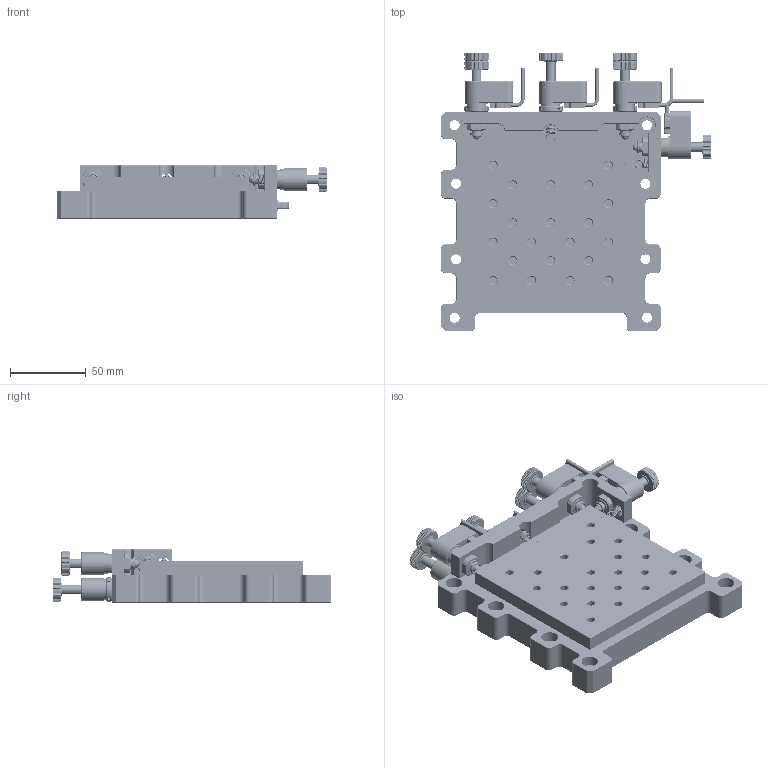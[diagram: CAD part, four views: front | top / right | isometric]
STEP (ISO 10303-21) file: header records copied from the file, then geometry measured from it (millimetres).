
FILE_DESCRIPTION (( 'STEP AP214' ), '1' );
FILE_NAME ('N91.XYZTR4K鞠粣揤萇噩殤24.04.18.STEP', '2024-04-18T06:37:35', ( 'User' ), ( 'China' ), 'SwSTEP 2.0', 'SolidWorks 2016', '' );
FILE_SCHEMA (( 'AUTOMOTIVE_DESIGN' ));
Length unit declared in the file: millimetre
Products named in the file (33): N81锁紧螺母（230315）; 带花纹螺母-2（230315）; hexagon socket head cap screws gb_GB_FASTENER_SCREWS_HSHCS M1.6X4-N; N81肣蹟恇奪-M12; N81止动螺母（230315）; N91.XYZTR4K挃詩菜; N81蹟裝ㄗ230315ㄘ; GB╱T 77-2007[内六角平端紧定螺钉M3×20]_M3×16; N81钢球（230315）; N91.XYZTR4K幗紩; N91.XYZTR4K鞠粣揤萇噩殤24.04.18; N81铜螺纹管-1（230315）; 零件1^N81压电螺钉简化版24.03.15（230315）; 嶺銅0.8x6x15; N81螺杆组成（230315）; N91.XYZTR4K怢醱; N81肣蹟恇奪坶踡遠-M12; hex socket set screws with cone point gb_GB_FASTENER_SCREWS_HSCP M2.5X3-N; N91.XYZTR4K嶺銅裝; N91.XYZTR4K怢极; GB╱T 77-2007[内六角平端紧定螺钉M2×16]_M2×8; 零件1^N81压电螺钉简化版（M12）24.04.15; 外壳（简化版）（230315）; GB╱T 77-2007[内六角平端紧定螺钉M2×8]_M2×8; N91.XYZTR4K幗紩覃誹裝; 嶺銅0.8x6x20; N81压电螺钉简化版（M12）24.04.15; 零件4^N81压电螺钉简化版（M12）24.04.15; N91.XYZTR4K芢裝; 机构座（简化版）（230315）; N81压电螺钉简化版24.03.15（230315）; 零件4^N81压电螺钉简化版24.03.15（230315）; 盄標1ㄗ230315ㄘ
Assembly tree (60 placements, depth 4):
  N91.XYZTR4K鞠粣揤萇噩殤24.04.18
    N91.XYZTR4K怢极
    N91.XYZTR4K怢醱
    N91.XYZTR4K幗紩  x3
    N91.XYZTR4K幗紩覃誹裝  x3
    N91.XYZTR4K芢裝
    N91.XYZTR4K挃詩菜  x6
    N81压电螺钉简化版24.03.15（230315）  x3
      机构座（简化版）（230315）
      外壳（简化版）（230315）
      N81螺杆组成（230315）
        N81蹟裝ㄗ230315ㄘ
        N81钢球（230315）
        带花纹螺母-2（230315）
        hex socket set screws with cone point gb_GB_FASTENER_SCREWS_HSCP M2.5X3-N
      N81铜螺纹管-1（230315）
      N81止动螺母（230315）
      N81锁紧螺母（230315）
      hexagon socket head cap screws gb_GB_FASTENER_SCREWS_HSHCS M1.6X4-N
      盄標1ㄗ230315ㄘ
      零件1^N81压电螺钉简化版24.03.15（230315）
    N81压电螺钉简化版（M12）24.04.15  x3
      机构座（简化版）（230315）
      外壳（简化版）（230315）
      N81螺杆组成（230315）
        N81蹟裝ㄗ230315ㄘ
        N81钢球（230315）
        带花纹螺母-2（230315）
        hex socket set screws with cone point gb_GB_FASTENER_SCREWS_HSCP M2.5X3-N
      N81肣蹟恇奪-M12
      N81止动螺母（230315）
      盄標1ㄗ230315ㄘ
      零件1^N81压电螺钉简化版（M12）24.04.15
      hexagon socket head cap screws gb_GB_FASTENER_SCREWS_HSHCS M1.6X4-N
      N81肣蹟恇奪坶踡遠-M12
    GB╱T 77-2007[内六角平端紧定螺钉M2×8]_M2×8  x2
    GB╱T 77-2007[内六角平端紧定螺钉M3×20]_M3×16  x2
    GB╱T 77-2007[内六角平端紧定螺钉M2×16]_M2×8  x2
    N91.XYZTR4K嶺銅裝  x2
    嶺銅0.8x6x15  x2
    嶺銅0.8x6x20  x2
  零件4^N81压电螺钉简化版（M12）24.04.15
  零件4^N81压电螺钉简化版24.03.15（230315）
Bounding box: 178.3 x 183.97 x 35.5 mm (x, y, z)
Volume: 498952.4 mm3; surface area: 165512.2 mm2
Topology: 114 solids, 114 shells, 4900 faces, 12434 edges, 7774 vertices
Faces by surface type: plane 1988, cylinder 1955, cone 777, torus 108, bspline 54, sphere 18
Entity records: 53389 total; most frequent: CARTESIAN_POINT 18871, DIRECTION 6748, ORIENTED_EDGE 6662, EDGE_CURVE 3331, AXIS2_PLACEMENT_3D 2600, VERTEX_POINT 2073, EDGE_LOOP 1552, LINE 1548
